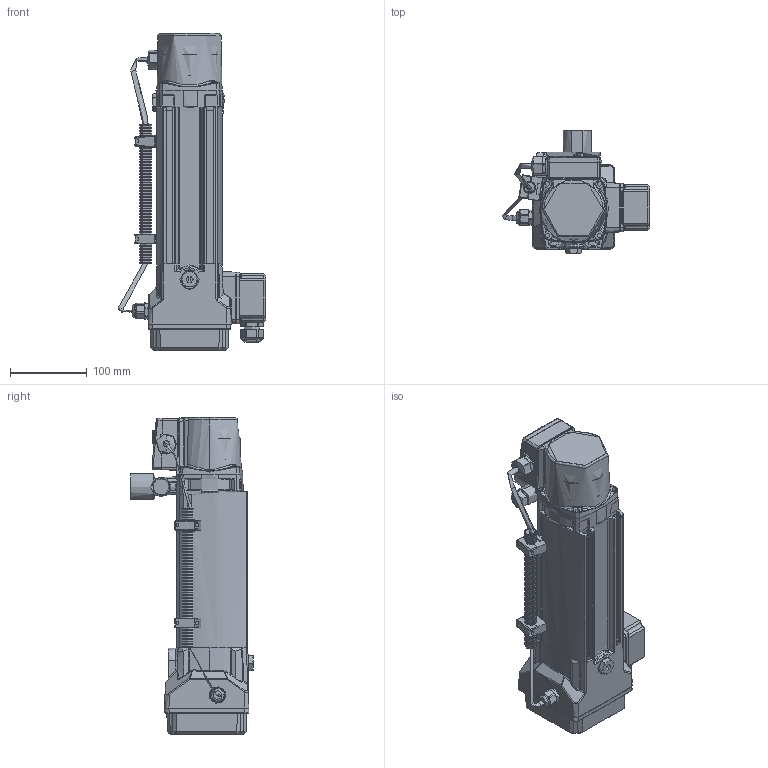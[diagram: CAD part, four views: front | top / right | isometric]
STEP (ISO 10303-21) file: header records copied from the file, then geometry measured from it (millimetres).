
FILE_DESCRIPTION((''),'2;1');
FILE_NAME('HWP40N_WZ_A__ASM','2025-03-20T09:05:59',('Administrator'),(''),'CREO PARAMETRIC BY PTC INC, 2019010','CREO PARAMETRIC BY PTC INC, 2019010','');
FILE_SCHEMA(('CONFIG_CONTROL_DESIGN'));
Products named in the file (7): NONE-108825; HWP40N_WZ_A__1_1; NONE-48603; NONE-34486; NONE-95850; HWP40N_WZ_A__1_ASM; HWP40N_WZ_A__ASM
Assembly tree (6 placements, depth 3):
  HWP40N_WZ_A__ASM
    HWP40N_WZ_A__1_ASM
      NONE-108825
      HWP40N_WZ_A__1_1
      NONE-48603
      NONE-34486
      NONE-95850
Bounding box: 192.63 x 160.7 x 414.33 mm (x, y, z)
Topology: 20 solids, 24 shells, 3127 faces, 7845 edges, 4881 vertices
Faces by surface type: plane 1112, cylinder 952, bspline 474, cone 356, torus 145, sphere 53, extrusion 33, revolution 2
Entity records: 122166 total; most frequent: CARTESIAN_POINT 51649, ORIENTED_EDGE 15573, DIRECTION 13273, EDGE_CURVE 7792, AXIS2_PLACEMENT_3D 5028, VERTEX_POINT 4876, EDGE_LOOP 3354, VECTOR 3215
